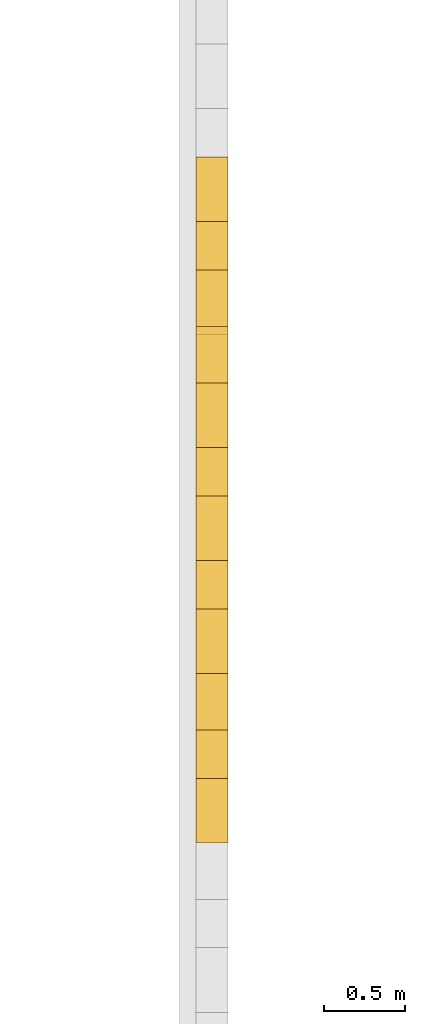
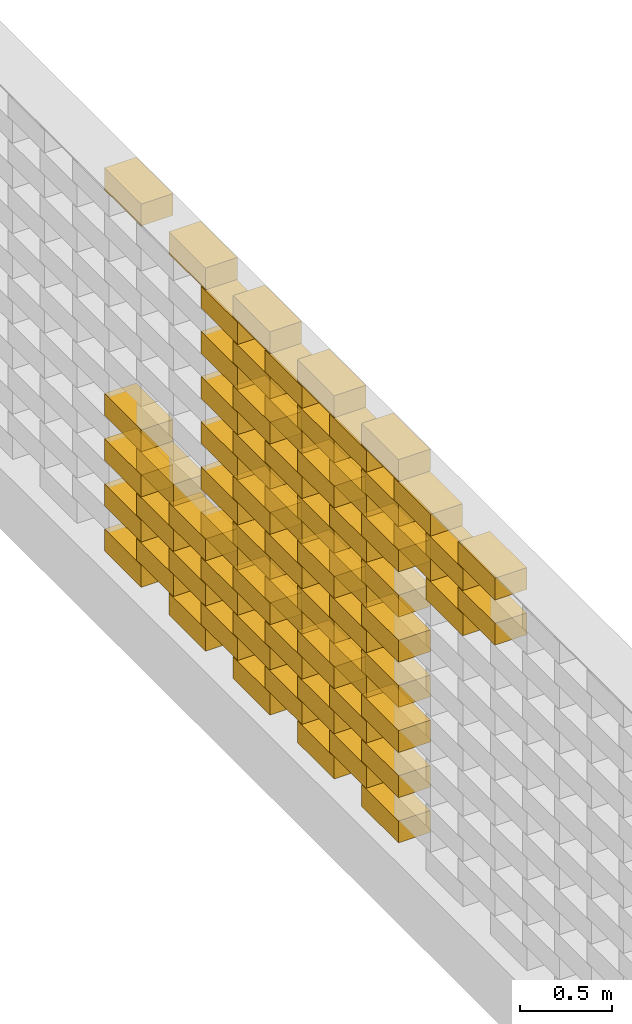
# One storey, part 42 of 62: 80 railings.
"""IFC2X3 building model written with IfcOpenShell, lengths in millimetres."""

from ifc_helpers import new_model, entity, si_unit, converted_unit, derived_unit, money_unit, direction, frame, origin_with_axes, place, context, subcontext, project, spatial, polyline, outline, extrude, material, type_object, element, save


model = new_model("IFC2X3")

# Units and contexts
model_context = context("Model", 3, precision=0.01, world=origin_with_axes(), true_north=direction((0.0, 1.0)))
body_context = subcontext(model_context, "Body", "Model", "MODEL_VIEW")
ifc_project = project(units=[si_unit("LENGTHUNIT", "METRE", prefix="MILLI"), si_unit("AREAUNIT", "SQUARE_METRE"), si_unit("VOLUMEUNIT", "CUBIC_METRE"), converted_unit("PLANEANGLEUNIT", "DEGREE", entity("IfcPlaneAngleMeasure", 0.0174532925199), si_unit("PLANEANGLEUNIT", "RADIAN"), dimensions=[0, 0, 0, 0, 0, 0, 0]), si_unit("SOLIDANGLEUNIT", "STERADIAN"), money_unit("EUR"), converted_unit("TIMEUNIT", "Year", entity("IfcTimeMeasure", 31556926.0), si_unit("TIMEUNIT", "SECOND"), dimensions=[0, 0, 1, 0, 0, 0, 0]), si_unit("MASSUNIT", "GRAM", prefix="KILO"), si_unit("THERMODYNAMICTEMPERATUREUNIT", "DEGREE_CELSIUS"), si_unit("LUMINOUSINTENSITYUNIT", "LUMEN"), si_unit("ENERGYUNIT", "JOULE", prefix="MEGA"), derived_unit("THERMALCONDUCTANCEUNIT", [(si_unit("POWERUNIT", "WATT"), 1), (si_unit("LENGTHUNIT", "METRE"), -1), (si_unit("THERMODYNAMICTEMPERATUREUNIT", "KELVIN"), -1)]), derived_unit("SPECIFICHEATCAPACITYUNIT", [(si_unit("ENERGYUNIT", "JOULE"), 1), (si_unit("MASSUNIT", "GRAM", prefix="KILO"), -1), (si_unit("THERMODYNAMICTEMPERATUREUNIT", "KELVIN"), -1)]), derived_unit("MASSDENSITYUNIT", [(si_unit("MASSUNIT", "GRAM", prefix="KILO"), 1), (si_unit("VOLUMEUNIT", "CUBIC_METRE"), -1)])], contexts=[model_context])

# Site, building, storey
site_placement = place(None, origin_with_axes())
site = spatial("IfcSite", under=ifc_project, at=site_placement, Name="KIRDE 14, ELVA", CompositionType="ELEMENT")
building_placement = place(site_placement, origin_with_axes())
building = spatial("IfcBuilding", under=site, at=building_placement, Name="PPA ja Päästeameti ühishoone", CompositionType="ELEMENT")
storey_placement = place(building_placement, origin_with_axes())
storey = spatial("IfcBuildingStorey", under=building, at=storey_placement, Name="Esimene korrus", CompositionType="ELEMENT", Elevation=0.0)

# Railings
ifc_material = material(Name="Air Space")
railing_type = type_object("IfcRailingType", Name="Air Space 200", PredefinedType="NOTDEFINED")
railing_1_placement = place(storey_placement, frame((620.000151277, -10423.8398399, 2800.0), z_axis=(0.0, 0.0, 1.0), x_axis=(8.73114910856e-10, -1.0, 0.0)))
element("IfcRailing", 1, at=railing_1_placement, inside=storey, type_object=railing_type, material=ifc_material, Name="plokk", PredefinedType="NOTDEFINED", context=body_context, shape_type="SweptSolid", body=[
    extrude(outline(polyline([(0.0, 0.0), (400.000001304, 0.0), (400.000001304, 200.0), (0.0, 200.0), (0.0, 0.0)])), origin_with_axes(), (0.0, 0.0, 1.0), 145.0),
])
railing_2_placement = place(storey_placement, frame((620.000151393, -11823.8398403, 2800.0), z_axis=(0.0, 0.0, 1.0), x_axis=(-4.36557457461e-10, -1.0, 0.0)))
element("IfcRailing", 2, at=railing_2_placement, inside=storey, type_object=railing_type, material=ifc_material, Name="plokk", PredefinedType="NOTDEFINED", context=body_context, shape_type="SweptSolid", body=[
    extrude(outline(polyline([(0.0, 0.0), (399.999999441, 0.0), (399.999999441, 200.0), (0.0, 200.0), (0.0, 0.0)])), origin_with_axes(), (0.0, 0.0, 1.0), 145.0),
])
railing_3_placement = place(storey_placement, frame((620.000151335, -11123.8398401, 2800.0), z_axis=(0.0, 0.0, 1.0), x_axis=(7.27595759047e-10, -1.0, 0.0)))
element("IfcRailing", 3, at=railing_3_placement, inside=storey, type_object=railing_type, material=ifc_material, Name="plokk", PredefinedType="NOTDEFINED", context=body_context, shape_type="SweptSolid", body=[
    extrude(outline(polyline([(0.0, 0.0), (400.000001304, 0.0), (400.000001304, 200.0), (0.0, 200.0), (0.0, 0.0)])), origin_with_axes(), (0.0, 0.0, 1.0), 145.0),
])
railing_4_placement = place(storey_placement, frame((620.000151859, -12523.8398396, 2800.0), z_axis=(0.0, 0.0, 1.0), x_axis=(7.27595762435e-10, -1.0, 0.0)))
element("IfcRailing", 4, at=railing_4_placement, inside=storey, type_object=railing_type, material=ifc_material, Name="plokk", PredefinedType="NOTDEFINED", context=body_context, shape_type="SweptSolid", body=[
    extrude(outline(polyline([(0.0, 0.0), (399.999999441, 0.0), (399.999999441, 200.0), (0.0, 200.0), (0.0, 0.0)])), origin_with_axes(), (0.0, 0.0, 1.0), 145.0),
])
for number, where, z_axis, x_axis in (
    (5, (620.000151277, -10423.8398399, 400.0), (0.0, 0.0, 1.0), (8.73114910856e-10, -1.0, 0.0)),
    (6, (620.000151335, -11123.8398401, 400.0), (0.0, 0.0, 1.0), (7.27595759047e-10, -1.0, 0.0)),
):
    element("IfcRailing", number, at=place(storey_placement, frame(where, z_axis=z_axis, x_axis=x_axis)), inside=storey, type_object=railing_type, material=ifc_material, Name="plokk", PredefinedType="NOTDEFINED", context=body_context, shape_type="SweptSolid", body=[
        extrude(outline(polyline([(0.0, 0.0), (400.000001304, 0.0), (400.000001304, 200.0), (0.0, 200.0), (0.0, 0.0)])), origin_with_axes(), (0.0, 0.0, 1.0), 145.0),
    ])
for number, where, z_axis, x_axis in (
    (7, (620.000151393, -11823.8398403, 400.0), (0.0, 0.0, 1.0), (-4.36557457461e-10, -1.0, 0.0)),
    (8, (620.000151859, -12523.8398396, 400.0), (0.0, 0.0, 1.0), (7.27595762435e-10, -1.0, 0.0)),
):
    element("IfcRailing", number, at=place(storey_placement, frame(where, z_axis=z_axis, x_axis=x_axis)), inside=storey, type_object=railing_type, material=ifc_material, Name="plokk", PredefinedType="NOTDEFINED", context=body_context, shape_type="SweptSolid", body=[
        extrude(outline(polyline([(0.0, 0.0), (399.999999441, 0.0), (399.999999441, 200.0), (0.0, 200.0), (0.0, 0.0)])), origin_with_axes(), (0.0, 0.0, 1.0), 145.0),
    ])
for number, where, z_axis, x_axis in (
    (9, (620.00015151, -13223.8398398, 400.0), (0.0, 0.0, 1.0), (7.27595760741e-10, -1.0, 0.0)),
    (10, (620.000152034, -10773.8398396, 550.0), (0.0, 0.0, 1.0), (-4.36557456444e-10, -1.0, 0.0)),
):
    element("IfcRailing", number, at=place(storey_placement, frame(where, z_axis=z_axis, x_axis=x_axis)), inside=storey, type_object=railing_type, material=ifc_material, Name="plokk", PredefinedType="NOTDEFINED", context=body_context, shape_type="SweptSolid", body=[
        extrude(outline(polyline([(0.0, 0.0), (400.000000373, 0.0), (400.000000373, 200.0), (0.0, 200.0), (0.0, 0.0)])), origin_with_axes(), (0.0, 0.0, 1.0), 145.0),
    ])
railing_5_placement = place(storey_placement, frame((620.00015151, -11473.8398398, 550.0), z_axis=(0.0, 0.0, 1.0), x_axis=(-1.16415321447e-09, -1.0, 0.0)))
element("IfcRailing", 11, at=railing_5_placement, inside=storey, type_object=railing_type, material=ifc_material, Name="plokk", PredefinedType="NOTDEFINED", context=body_context, shape_type="SweptSolid", body=[
    extrude(outline(polyline([(0.0, 0.0), (400.000001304, 0.0), (400.000001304, 200.0), (0.0, 200.0), (0.0, 0.0)])), origin_with_axes(), (0.0, 0.0, 1.0), 145.0),
])
railing_6_placement = place(storey_placement, frame((620.000151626, -12173.8398409, 550.0), z_axis=(0.0, 0.0, 1.0), x_axis=(7.27595762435e-10, -1.0, 0.0)))
element("IfcRailing", 12, at=railing_6_placement, inside=storey, type_object=railing_type, material=ifc_material, Name="plokk", PredefinedType="NOTDEFINED", context=body_context, shape_type="SweptSolid", body=[
    extrude(outline(polyline([(0.0, 0.0), (399.999999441, 0.0), (399.999999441, 200.0), (0.0, 200.0), (0.0, 0.0)])), origin_with_axes(), (0.0, 0.0, 1.0), 145.0),
])
for number, where, z_axis, x_axis in (
    (13, (620.000151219, -12873.8398401, 550.0), (0.0, 0.0, 1.0), (1.45519151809e-09, -1.0, 0.0)),
    (14, (620.000151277, -10423.8398399, 700.0), (0.0, 0.0, 1.0), (8.73114910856e-10, -1.0, 0.0)),
    (15, (620.000151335, -11123.8398401, 700.0), (0.0, 0.0, 1.0), (7.27595759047e-10, -1.0, 0.0)),
):
    element("IfcRailing", number, at=place(storey_placement, frame(where, z_axis=z_axis, x_axis=x_axis)), inside=storey, type_object=railing_type, material=ifc_material, Name="plokk", PredefinedType="NOTDEFINED", context=body_context, shape_type="SweptSolid", body=[
        extrude(outline(polyline([(0.0, 0.0), (400.000001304, 0.0), (400.000001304, 200.0), (0.0, 200.0), (0.0, 0.0)])), origin_with_axes(), (0.0, 0.0, 1.0), 145.0),
    ])
for number, where, z_axis, x_axis in (
    (16, (620.000151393, -11823.8398403, 700.0), (0.0, 0.0, 1.0), (-4.36557457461e-10, -1.0, 0.0)),
    (17, (620.000151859, -12523.8398396, 700.0), (0.0, 0.0, 1.0), (7.27595762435e-10, -1.0, 0.0)),
):
    element("IfcRailing", number, at=place(storey_placement, frame(where, z_axis=z_axis, x_axis=x_axis)), inside=storey, type_object=railing_type, material=ifc_material, Name="plokk", PredefinedType="NOTDEFINED", context=body_context, shape_type="SweptSolid", body=[
        extrude(outline(polyline([(0.0, 0.0), (399.999999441, 0.0), (399.999999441, 200.0), (0.0, 200.0), (0.0, 0.0)])), origin_with_axes(), (0.0, 0.0, 1.0), 145.0),
    ])
for number, where, z_axis, x_axis in (
    (18, (620.00015151, -13223.8398398, 700.0), (0.0, 0.0, 1.0), (7.27595760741e-10, -1.0, 0.0)),
    (19, (620.000152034, -10773.8398396, 850.0), (0.0, 0.0, 1.0), (-4.36557456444e-10, -1.0, 0.0)),
):
    element("IfcRailing", number, at=place(storey_placement, frame(where, z_axis=z_axis, x_axis=x_axis)), inside=storey, type_object=railing_type, material=ifc_material, Name="plokk", PredefinedType="NOTDEFINED", context=body_context, shape_type="SweptSolid", body=[
        extrude(outline(polyline([(0.0, 0.0), (400.000000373, 0.0), (400.000000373, 200.0), (0.0, 200.0), (0.0, 0.0)])), origin_with_axes(), (0.0, 0.0, 1.0), 145.0),
    ])
railing_7_placement = place(storey_placement, frame((620.00015151, -11473.8398398, 850.0), z_axis=(0.0, 0.0, 1.0), x_axis=(-1.16415321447e-09, -1.0, 0.0)))
element("IfcRailing", 20, at=railing_7_placement, inside=storey, type_object=railing_type, material=ifc_material, Name="plokk", PredefinedType="NOTDEFINED", context=body_context, shape_type="SweptSolid", body=[
    extrude(outline(polyline([(0.0, 0.0), (400.000001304, 0.0), (400.000001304, 200.0), (0.0, 200.0), (0.0, 0.0)])), origin_with_axes(), (0.0, 0.0, 1.0), 145.0),
])
railing_8_placement = place(storey_placement, frame((620.000151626, -12173.8398409, 850.0), z_axis=(0.0, 0.0, 1.0), x_axis=(7.27595762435e-10, -1.0, 0.0)))
element("IfcRailing", 21, at=railing_8_placement, inside=storey, type_object=railing_type, material=ifc_material, Name="plokk", PredefinedType="NOTDEFINED", context=body_context, shape_type="SweptSolid", body=[
    extrude(outline(polyline([(0.0, 0.0), (399.999999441, 0.0), (399.999999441, 200.0), (0.0, 200.0), (0.0, 0.0)])), origin_with_axes(), (0.0, 0.0, 1.0), 145.0),
])
for number, where, z_axis, x_axis in (
    (22, (620.000151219, -12873.8398401, 850.0), (0.0, 0.0, 1.0), (1.45519151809e-09, -1.0, 0.0)),
    (23, (620.000151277, -10423.8398399, 1000.0), (0.0, 0.0, 1.0), (8.73114910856e-10, -1.0, 0.0)),
    (24, (620.000151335, -11123.8398401, 1000.0), (0.0, 0.0, 1.0), (7.27595759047e-10, -1.0, 0.0)),
):
    element("IfcRailing", number, at=place(storey_placement, frame(where, z_axis=z_axis, x_axis=x_axis)), inside=storey, type_object=railing_type, material=ifc_material, Name="plokk", PredefinedType="NOTDEFINED", context=body_context, shape_type="SweptSolid", body=[
        extrude(outline(polyline([(0.0, 0.0), (400.000001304, 0.0), (400.000001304, 200.0), (0.0, 200.0), (0.0, 0.0)])), origin_with_axes(), (0.0, 0.0, 1.0), 145.0),
    ])
for number, where, z_axis, x_axis in (
    (25, (620.000151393, -11823.8398403, 1000.0), (0.0, 0.0, 1.0), (-4.36557457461e-10, -1.0, 0.0)),
    (26, (620.000151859, -12523.8398396, 1000.0), (0.0, 0.0, 1.0), (7.27595762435e-10, -1.0, 0.0)),
):
    element("IfcRailing", number, at=place(storey_placement, frame(where, z_axis=z_axis, x_axis=x_axis)), inside=storey, type_object=railing_type, material=ifc_material, Name="plokk", PredefinedType="NOTDEFINED", context=body_context, shape_type="SweptSolid", body=[
        extrude(outline(polyline([(0.0, 0.0), (399.999999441, 0.0), (399.999999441, 200.0), (0.0, 200.0), (0.0, 0.0)])), origin_with_axes(), (0.0, 0.0, 1.0), 145.0),
    ])
for number, where, z_axis, x_axis in (
    (27, (620.00015151, -13223.8398398, 1000.0), (0.0, 0.0, 1.0), (7.27595760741e-10, -1.0, 0.0)),
    (28, (620.00015151, -13223.8398398, 2800.0), (0.0, 0.0, 1.0), (7.27595760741e-10, -1.0, 0.0)),
):
    element("IfcRailing", number, at=place(storey_placement, frame(where, z_axis=z_axis, x_axis=x_axis)), inside=storey, type_object=railing_type, material=ifc_material, Name="plokk", PredefinedType="NOTDEFINED", context=body_context, shape_type="SweptSolid", body=[
        extrude(outline(polyline([(0.0, 0.0), (400.000000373, 0.0), (400.000000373, 200.0), (0.0, 200.0), (0.0, 0.0)])), origin_with_axes(), (0.0, 0.0, 1.0), 145.0),
    ])
for number, where, z_axis, x_axis in (
    (29, (620.000151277, -10423.8398399, 1000.0), (0.0, 0.0, 1.0), (8.73114910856e-10, -1.0, 0.0)),
    (30, (620.000151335, -11123.8398401, 1000.0), (0.0, 0.0, 1.0), (7.27595759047e-10, -1.0, 0.0)),
):
    element("IfcRailing", number, at=place(storey_placement, frame(where, z_axis=z_axis, x_axis=x_axis)), inside=storey, type_object=railing_type, material=ifc_material, Name="plokk", PredefinedType="NOTDEFINED", context=body_context, shape_type="SweptSolid", body=[
        extrude(outline(polyline([(0.0, 0.0), (400.000001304, 0.0), (400.000001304, 200.0), (0.0, 200.0), (0.0, 0.0)])), origin_with_axes(), (0.0, 0.0, 1.0), 145.0),
    ])
for number, where, z_axis, x_axis in (
    (31, (620.000151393, -11823.8398403, 1000.0), (0.0, 0.0, 1.0), (-4.36557457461e-10, -1.0, 0.0)),
    (32, (620.000151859, -12523.8398396, 1000.0), (0.0, 0.0, 1.0), (7.27595762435e-10, -1.0, 0.0)),
):
    element("IfcRailing", number, at=place(storey_placement, frame(where, z_axis=z_axis, x_axis=x_axis)), inside=storey, type_object=railing_type, material=ifc_material, Name="plokk", PredefinedType="NOTDEFINED", context=body_context, shape_type="SweptSolid", body=[
        extrude(outline(polyline([(0.0, 0.0), (399.999999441, 0.0), (399.999999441, 200.0), (0.0, 200.0), (0.0, 0.0)])), origin_with_axes(), (0.0, 0.0, 1.0), 145.0),
    ])
for number, where, z_axis, x_axis in (
    (33, (620.00015151, -13223.8398398, 1000.0), (0.0, 0.0, 1.0), (7.27595760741e-10, -1.0, 0.0)),
    (34, (620.000152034, -10773.8398396, 1150.0), (0.0, 0.0, 1.0), (-4.36557456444e-10, -1.0, 0.0)),
):
    element("IfcRailing", number, at=place(storey_placement, frame(where, z_axis=z_axis, x_axis=x_axis)), inside=storey, type_object=railing_type, material=ifc_material, Name="plokk", PredefinedType="NOTDEFINED", context=body_context, shape_type="SweptSolid", body=[
        extrude(outline(polyline([(0.0, 0.0), (400.000000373, 0.0), (400.000000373, 200.0), (0.0, 200.0), (0.0, 0.0)])), origin_with_axes(), (0.0, 0.0, 1.0), 145.0),
    ])
railing_9_placement = place(storey_placement, frame((620.00015151, -11473.8398398, 1150.0), z_axis=(0.0, 0.0, 1.0), x_axis=(-1.16415321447e-09, -1.0, 0.0)))
element("IfcRailing", 35, at=railing_9_placement, inside=storey, type_object=railing_type, material=ifc_material, Name="plokk", PredefinedType="NOTDEFINED", context=body_context, shape_type="SweptSolid", body=[
    extrude(outline(polyline([(0.0, 0.0), (400.000001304, 0.0), (400.000001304, 200.0), (0.0, 200.0), (0.0, 0.0)])), origin_with_axes(), (0.0, 0.0, 1.0), 145.0),
])
railing_10_placement = place(storey_placement, frame((620.000151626, -12173.8398409, 1150.0), z_axis=(0.0, 0.0, 1.0), x_axis=(7.27595762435e-10, -1.0, 0.0)))
element("IfcRailing", 36, at=railing_10_placement, inside=storey, type_object=railing_type, material=ifc_material, Name="plokk", PredefinedType="NOTDEFINED", context=body_context, shape_type="SweptSolid", body=[
    extrude(outline(polyline([(0.0, 0.0), (399.999999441, 0.0), (399.999999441, 200.0), (0.0, 200.0), (0.0, 0.0)])), origin_with_axes(), (0.0, 0.0, 1.0), 145.0),
])
for number, where, z_axis, x_axis in (
    (37, (620.000151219, -12873.8398401, 1150.0), (0.0, 0.0, 1.0), (1.45519151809e-09, -1.0, 0.0)),
    (38, (620.000151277, -10423.8398399, 1300.0), (0.0, 0.0, 1.0), (8.73114910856e-10, -1.0, 0.0)),
):
    element("IfcRailing", number, at=place(storey_placement, frame(where, z_axis=z_axis, x_axis=x_axis)), inside=storey, type_object=railing_type, material=ifc_material, Name="plokk", PredefinedType="NOTDEFINED", context=body_context, shape_type="SweptSolid", body=[
        extrude(outline(polyline([(0.0, 0.0), (400.000001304, 0.0), (400.000001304, 200.0), (0.0, 200.0), (0.0, 0.0)])), origin_with_axes(), (0.0, 0.0, 1.0), 145.0),
    ])
for number, where, z_axis, x_axis in (
    (39, (620.000151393, -11823.8398403, 1300.0), (0.0, 0.0, 1.0), (-4.36557457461e-10, -1.0, 0.0)),
    (40, (620.000151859, -12523.8398396, 1300.0), (0.0, 0.0, 1.0), (7.27595762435e-10, -1.0, 0.0)),
):
    element("IfcRailing", number, at=place(storey_placement, frame(where, z_axis=z_axis, x_axis=x_axis)), inside=storey, type_object=railing_type, material=ifc_material, Name="plokk", PredefinedType="NOTDEFINED", context=body_context, shape_type="SweptSolid", body=[
        extrude(outline(polyline([(0.0, 0.0), (399.999999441, 0.0), (399.999999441, 200.0), (0.0, 200.0), (0.0, 0.0)])), origin_with_axes(), (0.0, 0.0, 1.0), 145.0),
    ])
railing_11_placement = place(storey_placement, frame((620.00015151, -13223.8398398, 1300.0), z_axis=(0.0, 0.0, 1.0), x_axis=(7.27595760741e-10, -1.0, 0.0)))
element("IfcRailing", 41, at=railing_11_placement, inside=storey, type_object=railing_type, material=ifc_material, Name="plokk", PredefinedType="NOTDEFINED", context=body_context, shape_type="SweptSolid", body=[
    extrude(outline(polyline([(0.0, 0.0), (400.000000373, 0.0), (400.000000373, 200.0), (0.0, 200.0), (0.0, 0.0)])), origin_with_axes(), (0.0, 0.0, 1.0), 145.0),
])
railing_12_placement = place(storey_placement, frame((620.00015151, -11473.8398398, 1450.0), z_axis=(0.0, 0.0, 1.0), x_axis=(-1.16415321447e-09, -1.0, 0.0)))
element("IfcRailing", 42, at=railing_12_placement, inside=storey, type_object=railing_type, material=ifc_material, Name="plokk", PredefinedType="NOTDEFINED", context=body_context, shape_type="SweptSolid", body=[
    extrude(outline(polyline([(0.0, 0.0), (400.000001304, 0.0), (400.000001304, 200.0), (0.0, 200.0), (0.0, 0.0)])), origin_with_axes(), (0.0, 0.0, 1.0), 145.0),
])
railing_13_placement = place(storey_placement, frame((620.000151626, -12173.8398409, 1450.0), z_axis=(0.0, 0.0, 1.0), x_axis=(7.27595762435e-10, -1.0, 0.0)))
element("IfcRailing", 43, at=railing_13_placement, inside=storey, type_object=railing_type, material=ifc_material, Name="plokk", PredefinedType="NOTDEFINED", context=body_context, shape_type="SweptSolid", body=[
    extrude(outline(polyline([(0.0, 0.0), (399.999999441, 0.0), (399.999999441, 200.0), (0.0, 200.0), (0.0, 0.0)])), origin_with_axes(), (0.0, 0.0, 1.0), 145.0),
])
railing_14_placement = place(storey_placement, frame((620.000151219, -12873.8398401, 1450.0), z_axis=(0.0, 0.0, 1.0), x_axis=(1.45519151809e-09, -1.0, 0.0)))
element("IfcRailing", 44, at=railing_14_placement, inside=storey, type_object=railing_type, material=ifc_material, Name="plokk", PredefinedType="NOTDEFINED", context=body_context, shape_type="SweptSolid", body=[
    extrude(outline(polyline([(0.0, 0.0), (400.000001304, 0.0), (400.000001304, 200.0), (0.0, 200.0), (0.0, 0.0)])), origin_with_axes(), (0.0, 0.0, 1.0), 145.0),
])
for number, where, z_axis, x_axis in (
    (45, (620.000151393, -11823.8398403, 1600.0), (0.0, 0.0, 1.0), (-4.36557457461e-10, -1.0, 0.0)),
    (46, (620.000151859, -12523.8398396, 1600.0), (0.0, 0.0, 1.0), (7.27595762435e-10, -1.0, 0.0)),
):
    element("IfcRailing", number, at=place(storey_placement, frame(where, z_axis=z_axis, x_axis=x_axis)), inside=storey, type_object=railing_type, material=ifc_material, Name="plokk", PredefinedType="NOTDEFINED", context=body_context, shape_type="SweptSolid", body=[
        extrude(outline(polyline([(0.0, 0.0), (399.999999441, 0.0), (399.999999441, 200.0), (0.0, 200.0), (0.0, 0.0)])), origin_with_axes(), (0.0, 0.0, 1.0), 145.0),
    ])
railing_15_placement = place(storey_placement, frame((620.00015151, -13223.8398398, 1600.0), z_axis=(0.0, 0.0, 1.0), x_axis=(7.27595760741e-10, -1.0, 0.0)))
element("IfcRailing", 47, at=railing_15_placement, inside=storey, type_object=railing_type, material=ifc_material, Name="plokk", PredefinedType="NOTDEFINED", context=body_context, shape_type="SweptSolid", body=[
    extrude(outline(polyline([(0.0, 0.0), (400.000000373, 0.0), (400.000000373, 200.0), (0.0, 200.0), (0.0, 0.0)])), origin_with_axes(), (0.0, 0.0, 1.0), 145.0),
])
for number, where, z_axis, x_axis in (
    (48, (620.000151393, -11823.8398403, 1600.0), (0.0, 0.0, 1.0), (-4.36557457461e-10, -1.0, 0.0)),
    (49, (620.000151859, -12523.8398396, 1600.0), (0.0, 0.0, 1.0), (7.27595762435e-10, -1.0, 0.0)),
):
    element("IfcRailing", number, at=place(storey_placement, frame(where, z_axis=z_axis, x_axis=x_axis)), inside=storey, type_object=railing_type, material=ifc_material, Name="plokk", PredefinedType="NOTDEFINED", context=body_context, shape_type="SweptSolid", body=[
        extrude(outline(polyline([(0.0, 0.0), (399.999999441, 0.0), (399.999999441, 200.0), (0.0, 200.0), (0.0, 0.0)])), origin_with_axes(), (0.0, 0.0, 1.0), 145.0),
    ])
railing_16_placement = place(storey_placement, frame((620.00015151, -13223.8398398, 1600.0), z_axis=(0.0, 0.0, 1.0), x_axis=(7.27595760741e-10, -1.0, 0.0)))
element("IfcRailing", 50, at=railing_16_placement, inside=storey, type_object=railing_type, material=ifc_material, Name="plokk", PredefinedType="NOTDEFINED", context=body_context, shape_type="SweptSolid", body=[
    extrude(outline(polyline([(0.0, 0.0), (400.000000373, 0.0), (400.000000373, 200.0), (0.0, 200.0), (0.0, 0.0)])), origin_with_axes(), (0.0, 0.0, 1.0), 145.0),
])
railing_17_placement = place(storey_placement, frame((620.00015151, -11473.8398398, 1750.0), z_axis=(0.0, 0.0, 1.0), x_axis=(-1.16415321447e-09, -1.0, 0.0)))
element("IfcRailing", 51, at=railing_17_placement, inside=storey, type_object=railing_type, material=ifc_material, Name="plokk", PredefinedType="NOTDEFINED", context=body_context, shape_type="SweptSolid", body=[
    extrude(outline(polyline([(0.0, 0.0), (400.000001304, 0.0), (400.000001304, 200.0), (0.0, 200.0), (0.0, 0.0)])), origin_with_axes(), (0.0, 0.0, 1.0), 145.0),
])
railing_18_placement = place(storey_placement, frame((620.000151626, -12173.8398409, 1750.0), z_axis=(0.0, 0.0, 1.0), x_axis=(7.27595762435e-10, -1.0, 0.0)))
element("IfcRailing", 52, at=railing_18_placement, inside=storey, type_object=railing_type, material=ifc_material, Name="plokk", PredefinedType="NOTDEFINED", context=body_context, shape_type="SweptSolid", body=[
    extrude(outline(polyline([(0.0, 0.0), (399.999999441, 0.0), (399.999999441, 200.0), (0.0, 200.0), (0.0, 0.0)])), origin_with_axes(), (0.0, 0.0, 1.0), 145.0),
])
railing_19_placement = place(storey_placement, frame((620.000151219, -12873.8398401, 1750.0), z_axis=(0.0, 0.0, 1.0), x_axis=(1.45519151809e-09, -1.0, 0.0)))
element("IfcRailing", 53, at=railing_19_placement, inside=storey, type_object=railing_type, material=ifc_material, Name="plokk", PredefinedType="NOTDEFINED", context=body_context, shape_type="SweptSolid", body=[
    extrude(outline(polyline([(0.0, 0.0), (400.000001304, 0.0), (400.000001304, 200.0), (0.0, 200.0), (0.0, 0.0)])), origin_with_axes(), (0.0, 0.0, 1.0), 145.0),
])
for number, where, z_axis, x_axis in (
    (54, (620.000151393, -11823.8398403, 1900.0), (0.0, 0.0, 1.0), (-4.36557457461e-10, -1.0, 0.0)),
    (55, (620.000151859, -12523.8398396, 1900.0), (0.0, 0.0, 1.0), (7.27595762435e-10, -1.0, 0.0)),
):
    element("IfcRailing", number, at=place(storey_placement, frame(where, z_axis=z_axis, x_axis=x_axis)), inside=storey, type_object=railing_type, material=ifc_material, Name="plokk", PredefinedType="NOTDEFINED", context=body_context, shape_type="SweptSolid", body=[
        extrude(outline(polyline([(0.0, 0.0), (399.999999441, 0.0), (399.999999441, 200.0), (0.0, 200.0), (0.0, 0.0)])), origin_with_axes(), (0.0, 0.0, 1.0), 145.0),
    ])
railing_20_placement = place(storey_placement, frame((620.00015151, -13223.8398398, 1900.0), z_axis=(0.0, 0.0, 1.0), x_axis=(7.27595760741e-10, -1.0, 0.0)))
element("IfcRailing", 56, at=railing_20_placement, inside=storey, type_object=railing_type, material=ifc_material, Name="plokk", PredefinedType="NOTDEFINED", context=body_context, shape_type="SweptSolid", body=[
    extrude(outline(polyline([(0.0, 0.0), (400.000000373, 0.0), (400.000000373, 200.0), (0.0, 200.0), (0.0, 0.0)])), origin_with_axes(), (0.0, 0.0, 1.0), 145.0),
])
railing_21_placement = place(storey_placement, frame((620.00015151, -11473.8398398, 2050.0), z_axis=(0.0, 0.0, 1.0), x_axis=(-1.16415321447e-09, -1.0, 0.0)))
element("IfcRailing", 57, at=railing_21_placement, inside=storey, type_object=railing_type, material=ifc_material, Name="plokk", PredefinedType="NOTDEFINED", context=body_context, shape_type="SweptSolid", body=[
    extrude(outline(polyline([(0.0, 0.0), (400.000001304, 0.0), (400.000001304, 200.0), (0.0, 200.0), (0.0, 0.0)])), origin_with_axes(), (0.0, 0.0, 1.0), 145.0),
])
railing_22_placement = place(storey_placement, frame((620.000151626, -12173.8398409, 2050.0), z_axis=(0.0, 0.0, 1.0), x_axis=(7.27595762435e-10, -1.0, 0.0)))
element("IfcRailing", 58, at=railing_22_placement, inside=storey, type_object=railing_type, material=ifc_material, Name="plokk", PredefinedType="NOTDEFINED", context=body_context, shape_type="SweptSolid", body=[
    extrude(outline(polyline([(0.0, 0.0), (399.999999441, 0.0), (399.999999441, 200.0), (0.0, 200.0), (0.0, 0.0)])), origin_with_axes(), (0.0, 0.0, 1.0), 145.0),
])
railing_23_placement = place(storey_placement, frame((620.000151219, -12873.8398401, 2050.0), z_axis=(0.0, 0.0, 1.0), x_axis=(1.45519151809e-09, -1.0, 0.0)))
element("IfcRailing", 59, at=railing_23_placement, inside=storey, type_object=railing_type, material=ifc_material, Name="plokk", PredefinedType="NOTDEFINED", context=body_context, shape_type="SweptSolid", body=[
    extrude(outline(polyline([(0.0, 0.0), (400.000001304, 0.0), (400.000001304, 200.0), (0.0, 200.0), (0.0, 0.0)])), origin_with_axes(), (0.0, 0.0, 1.0), 145.0),
])
for number, where, z_axis, x_axis in (
    (60, (620.000151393, -11823.8398403, 2200.0), (0.0, 0.0, 1.0), (-4.36557457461e-10, -1.0, 0.0)),
    (61, (620.000151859, -12523.8398396, 2200.0), (0.0, 0.0, 1.0), (7.27595762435e-10, -1.0, 0.0)),
):
    element("IfcRailing", number, at=place(storey_placement, frame(where, z_axis=z_axis, x_axis=x_axis)), inside=storey, type_object=railing_type, material=ifc_material, Name="plokk", PredefinedType="NOTDEFINED", context=body_context, shape_type="SweptSolid", body=[
        extrude(outline(polyline([(0.0, 0.0), (399.999999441, 0.0), (399.999999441, 200.0), (0.0, 200.0), (0.0, 0.0)])), origin_with_axes(), (0.0, 0.0, 1.0), 145.0),
    ])
railing_24_placement = place(storey_placement, frame((620.00015151, -13223.8398398, 2200.0), z_axis=(0.0, 0.0, 1.0), x_axis=(7.27595760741e-10, -1.0, 0.0)))
element("IfcRailing", 62, at=railing_24_placement, inside=storey, type_object=railing_type, material=ifc_material, Name="plokk", PredefinedType="NOTDEFINED", context=body_context, shape_type="SweptSolid", body=[
    extrude(outline(polyline([(0.0, 0.0), (400.000000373, 0.0), (400.000000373, 200.0), (0.0, 200.0), (0.0, 0.0)])), origin_with_axes(), (0.0, 0.0, 1.0), 145.0),
])
for number, where, z_axis, x_axis in (
    (63, (620.000151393, -11823.8398403, 2200.0), (0.0, 0.0, 1.0), (-4.36557457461e-10, -1.0, 0.0)),
    (64, (620.000151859, -12523.8398396, 2200.0), (0.0, 0.0, 1.0), (7.27595762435e-10, -1.0, 0.0)),
):
    element("IfcRailing", number, at=place(storey_placement, frame(where, z_axis=z_axis, x_axis=x_axis)), inside=storey, type_object=railing_type, material=ifc_material, Name="plokk", PredefinedType="NOTDEFINED", context=body_context, shape_type="SweptSolid", body=[
        extrude(outline(polyline([(0.0, 0.0), (399.999999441, 0.0), (399.999999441, 200.0), (0.0, 200.0), (0.0, 0.0)])), origin_with_axes(), (0.0, 0.0, 1.0), 145.0),
    ])
for number, where, z_axis, x_axis in (
    (65, (620.00015151, -13223.8398398, 2200.0), (0.0, 0.0, 1.0), (7.27595760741e-10, -1.0, 0.0)),
    (66, (620.000152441, -13923.8398399, 2200.0), (0.0, 0.0, 1.0), (-1.45519152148e-09, -1.0, 0.0)),
):
    element("IfcRailing", number, at=place(storey_placement, frame(where, z_axis=z_axis, x_axis=x_axis)), inside=storey, type_object=railing_type, material=ifc_material, Name="plokk", PredefinedType="NOTDEFINED", context=body_context, shape_type="SweptSolid", body=[
        extrude(outline(polyline([(0.0, 0.0), (400.000000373, 0.0), (400.000000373, 200.0), (0.0, 200.0), (0.0, 0.0)])), origin_with_axes(), (0.0, 0.0, 1.0), 145.0),
    ])
railing_25_placement = place(storey_placement, frame((620.00015151, -11473.8398398, 2350.0), z_axis=(0.0, 0.0, 1.0), x_axis=(-1.16415321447e-09, -1.0, 0.0)))
element("IfcRailing", 67, at=railing_25_placement, inside=storey, type_object=railing_type, material=ifc_material, Name="plokk", PredefinedType="NOTDEFINED", context=body_context, shape_type="SweptSolid", body=[
    extrude(outline(polyline([(0.0, 0.0), (400.000001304, 0.0), (400.000001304, 200.0), (0.0, 200.0), (0.0, 0.0)])), origin_with_axes(), (0.0, 0.0, 1.0), 145.0),
])
railing_26_placement = place(storey_placement, frame((620.000151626, -12173.8398409, 2350.0), z_axis=(0.0, 0.0, 1.0), x_axis=(7.27595762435e-10, -1.0, 0.0)))
element("IfcRailing", 68, at=railing_26_placement, inside=storey, type_object=railing_type, material=ifc_material, Name="plokk", PredefinedType="NOTDEFINED", context=body_context, shape_type="SweptSolid", body=[
    extrude(outline(polyline([(0.0, 0.0), (399.999999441, 0.0), (399.999999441, 200.0), (0.0, 200.0), (0.0, 0.0)])), origin_with_axes(), (0.0, 0.0, 1.0), 145.0),
])
railing_27_placement = place(storey_placement, frame((620.000151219, -12873.8398401, 2350.0), z_axis=(0.0, 0.0, 1.0), x_axis=(1.45519151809e-09, -1.0, 0.0)))
element("IfcRailing", 69, at=railing_27_placement, inside=storey, type_object=railing_type, material=ifc_material, Name="plokk", PredefinedType="NOTDEFINED", context=body_context, shape_type="SweptSolid", body=[
    extrude(outline(polyline([(0.0, 0.0), (400.000001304, 0.0), (400.000001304, 200.0), (0.0, 200.0), (0.0, 0.0)])), origin_with_axes(), (0.0, 0.0, 1.0), 145.0),
])
railing_28_placement = place(storey_placement, frame((620.000152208, -13573.8398403, 2350.0), z_axis=(0.0, 0.0, 1.0), x_axis=(-4.36557457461e-10, -1.0, 0.0)))
element("IfcRailing", 70, at=railing_28_placement, inside=storey, type_object=railing_type, material=ifc_material, Name="plokk", PredefinedType="NOTDEFINED", context=body_context, shape_type="SweptSolid", body=[
    extrude(outline(polyline([(0.0, 0.0), (399.999999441, 0.0), (399.999999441, 200.0), (0.0, 200.0), (0.0, 0.0)])), origin_with_axes(), (0.0, 0.0, 1.0), 145.0),
])
railing_29_placement = place(storey_placement, frame((620.000151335, -14273.8398414, 2350.0), z_axis=(0.0, 0.0, 1.0), x_axis=(1.89174898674e-09, -1.0, 0.0)))
element("IfcRailing", 71, at=railing_29_placement, inside=storey, type_object=railing_type, material=ifc_material, Name="plokk", PredefinedType="NOTDEFINED", context=body_context, shape_type="SweptSolid", body=[
    extrude(outline(polyline([(0.0, 0.0), (399.99999851, 0.0), (399.99999851, 200.0), (0.0, 200.0), (0.0, 0.0)])), origin_with_axes(), (0.0, 0.0, 1.0), 145.0),
])
for number, where, z_axis, x_axis in (
    (72, (620.000151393, -11823.8398403, 2500.0), (0.0, 0.0, 1.0), (-4.36557457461e-10, -1.0, 0.0)),
    (73, (620.000151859, -12523.8398396, 2500.0), (0.0, 0.0, 1.0), (7.27595762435e-10, -1.0, 0.0)),
):
    element("IfcRailing", number, at=place(storey_placement, frame(where, z_axis=z_axis, x_axis=x_axis)), inside=storey, type_object=railing_type, material=ifc_material, Name="plokk", PredefinedType="NOTDEFINED", context=body_context, shape_type="SweptSolid", body=[
        extrude(outline(polyline([(0.0, 0.0), (399.999999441, 0.0), (399.999999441, 200.0), (0.0, 200.0), (0.0, 0.0)])), origin_with_axes(), (0.0, 0.0, 1.0), 145.0),
    ])
for number, where, z_axis, x_axis in (
    (74, (620.00015151, -13223.8398398, 2500.0), (0.0, 0.0, 1.0), (7.27595760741e-10, -1.0, 0.0)),
    (75, (620.000152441, -13923.8398399, 2500.0), (0.0, 0.0, 1.0), (-1.45519152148e-09, -1.0, 0.0)),
):
    element("IfcRailing", number, at=place(storey_placement, frame(where, z_axis=z_axis, x_axis=x_axis)), inside=storey, type_object=railing_type, material=ifc_material, Name="plokk", PredefinedType="NOTDEFINED", context=body_context, shape_type="SweptSolid", body=[
        extrude(outline(polyline([(0.0, 0.0), (400.000000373, 0.0), (400.000000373, 200.0), (0.0, 200.0), (0.0, 0.0)])), origin_with_axes(), (0.0, 0.0, 1.0), 145.0),
    ])
railing_30_placement = place(storey_placement, frame((620.00015151, -11473.8398398, 2650.0), z_axis=(0.0, 0.0, 1.0), x_axis=(-1.16415321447e-09, -1.0, 0.0)))
element("IfcRailing", 76, at=railing_30_placement, inside=storey, type_object=railing_type, material=ifc_material, Name="plokk", PredefinedType="NOTDEFINED", context=body_context, shape_type="SweptSolid", body=[
    extrude(outline(polyline([(0.0, 0.0), (400.000001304, 0.0), (400.000001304, 200.0), (0.0, 200.0), (0.0, 0.0)])), origin_with_axes(), (0.0, 0.0, 1.0), 145.0),
])
railing_31_placement = place(storey_placement, frame((620.000151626, -12173.8398409, 2650.0), z_axis=(0.0, 0.0, 1.0), x_axis=(7.27595762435e-10, -1.0, 0.0)))
element("IfcRailing", 77, at=railing_31_placement, inside=storey, type_object=railing_type, material=ifc_material, Name="plokk", PredefinedType="NOTDEFINED", context=body_context, shape_type="SweptSolid", body=[
    extrude(outline(polyline([(0.0, 0.0), (399.999999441, 0.0), (399.999999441, 200.0), (0.0, 200.0), (0.0, 0.0)])), origin_with_axes(), (0.0, 0.0, 1.0), 145.0),
])
railing_32_placement = place(storey_placement, frame((620.000151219, -12873.8398401, 2650.0), z_axis=(0.0, 0.0, 1.0), x_axis=(1.45519151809e-09, -1.0, 0.0)))
element("IfcRailing", 78, at=railing_32_placement, inside=storey, type_object=railing_type, material=ifc_material, Name="plokk", PredefinedType="NOTDEFINED", context=body_context, shape_type="SweptSolid", body=[
    extrude(outline(polyline([(0.0, 0.0), (400.000001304, 0.0), (400.000001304, 200.0), (0.0, 200.0), (0.0, 0.0)])), origin_with_axes(), (0.0, 0.0, 1.0), 145.0),
])
railing_33_placement = place(storey_placement, frame((620.000152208, -13573.8398403, 2650.0), z_axis=(0.0, 0.0, 1.0), x_axis=(-4.36557457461e-10, -1.0, 0.0)))
element("IfcRailing", 79, at=railing_33_placement, inside=storey, type_object=railing_type, material=ifc_material, Name="plokk", PredefinedType="NOTDEFINED", context=body_context, shape_type="SweptSolid", body=[
    extrude(outline(polyline([(0.0, 0.0), (399.999999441, 0.0), (399.999999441, 200.0), (0.0, 200.0), (0.0, 0.0)])), origin_with_axes(), (0.0, 0.0, 1.0), 145.0),
])
railing_34_placement = place(storey_placement, frame((620.000151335, -14273.8398414, 2650.0), z_axis=(0.0, 0.0, 1.0), x_axis=(1.89174898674e-09, -1.0, 0.0)))
element("IfcRailing", 80, at=railing_34_placement, inside=storey, type_object=railing_type, material=ifc_material, Name="plokk", PredefinedType="NOTDEFINED", context=body_context, shape_type="SweptSolid", body=[
    extrude(outline(polyline([(0.0, 0.0), (399.99999851, 0.0), (399.99999851, 200.0), (0.0, 200.0), (0.0, 0.0)])), origin_with_axes(), (0.0, 0.0, 1.0), 145.0),
])

save(model, "model.ifc")
